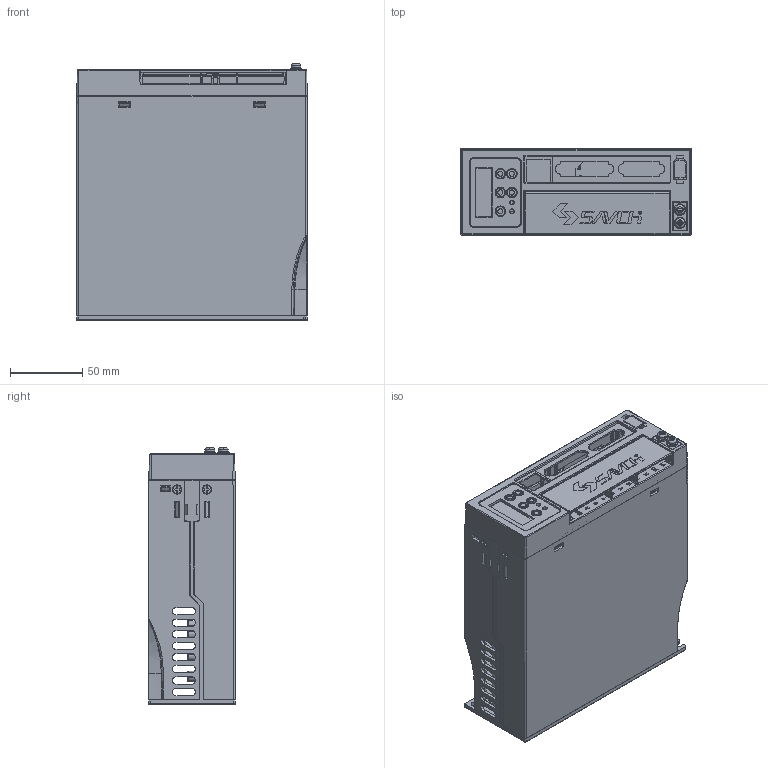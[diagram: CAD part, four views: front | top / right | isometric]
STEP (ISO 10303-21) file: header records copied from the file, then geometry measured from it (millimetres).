
FILE_DESCRIPTION((''),'2;1');
FILE_NAME('CL2-A_ASM','2023-08-02T17:11:37',('ZhangJF'),(''),'CREO PARAMETRIC BY PTC INC, 2019010','CREO PARAMETRIC BY PTC INC, 2019010','');
FILE_SCHEMA(('CONFIG_CONTROL_DESIGN','SHAPE_APPEARANCE_LAYERS_GROUPS'));
Products named in the file (10): MANIFOLD_SOLID_BREP_11869; 0_2_0_75KW-BJ-2015-8-18_ASM; LUOSI; PINGTOULUOSI; MANIFOLD_SOLID_BREP_11867; MIANBAN; XIANSHIBAN-20150525_ASM; SUJIAOZUOCEGAI; SUJIAOYOUCEGAI; CL2-A_ASM
Assembly tree (13 placements, depth 3):
  CL2-A_ASM
    0_2_0_75KW-BJ-2015-8-18_ASM
      MANIFOLD_SOLID_BREP_11869
    LUOSI  x2
    PINGTOULUOSI  x4
    MANIFOLD_SOLID_BREP_11867
    MIANBAN
    XIANSHIBAN-20150525_ASM
    SUJIAOZUOCEGAI
    SUJIAOYOUCEGAI
Bounding box: 160 x 60 x 177.8 mm (x, y, z)
Volume: 379454.1 mm3; surface area: 309165.9 mm2
Topology: 20 solids, 20 shells, 4440 faces, 12530 edges, 8224 vertices
Faces by surface type: plane 3237, cylinder 712, bspline 158, cone 120, extrusion 102, torus 91, sphere 20
Entity records: 148740 total; most frequent: CARTESIAN_POINT 37100, ORIENTED_EDGE 24418, DIRECTION 20873, EDGE_CURVE 12209, VECTOR 9829, LINE 9727, VERTEX_POINT 8016, AXIS2_PLACEMENT_3D 5522
